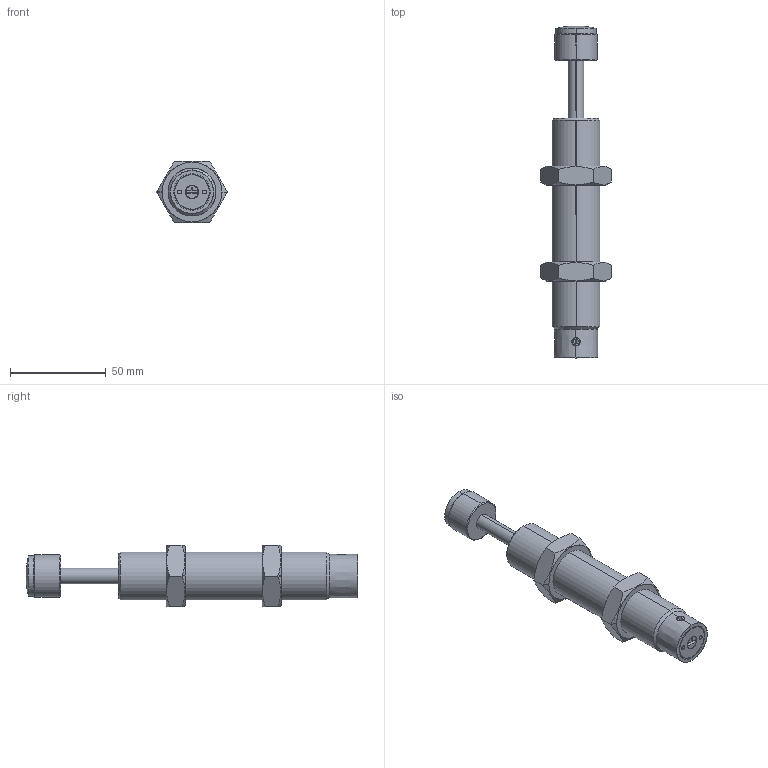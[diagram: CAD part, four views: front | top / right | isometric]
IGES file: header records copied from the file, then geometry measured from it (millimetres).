
Start section: SolidWorks IGES file using analytic representation for surfaces
Bounding box: 36.95 x 173.04 x 32 mm (x, y, z)
Surface area: 25282.7 mm2 (no closed solid volume)
Topology: 0 solids, 0 shells, 95 faces, 1772 edges, 1771 vertices
Faces by surface type: revolution 60, bspline 35
